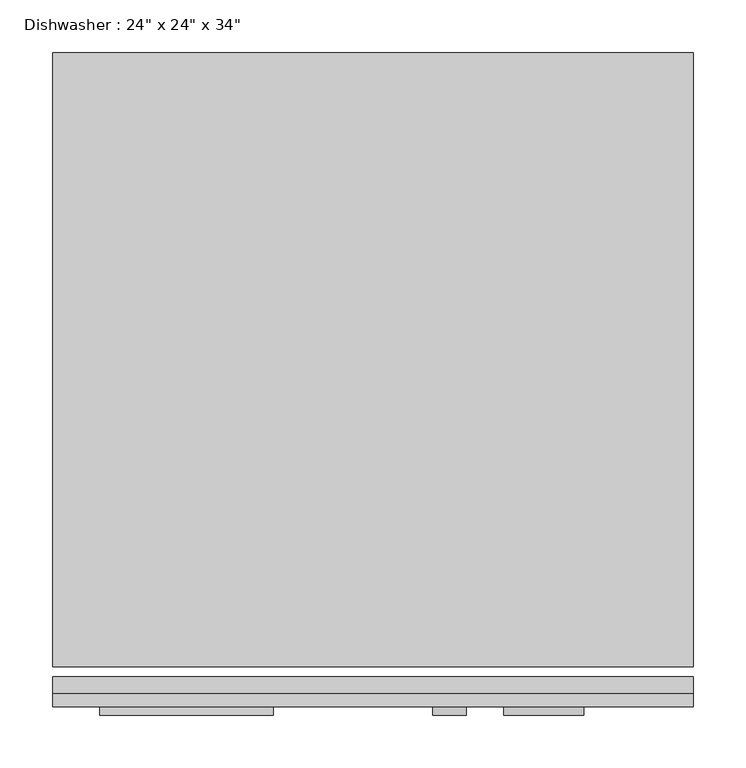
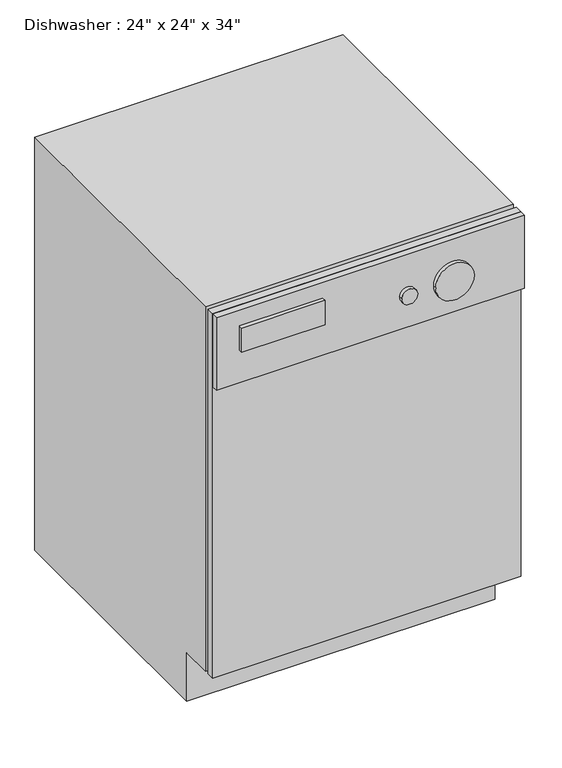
"""IFC4 building model written with IfcOpenShell, lengths in millimetres: proxy geometry."""

from ifc_helpers import new_model, si_unit, point, frame, frame_2d, origin, place, context, project, spatial, polyline, circle_curve, trimmed, segment, composite_curve, outline, extrude, source, transform, mapped, element, save


def proxy_45b28599(model_context):
    return source(origin(), model_context, "Body", "SweptSolid", [
        extrude(outline(polyline([(687.1174685, -38.3504352), (77.5174685, -38.3504352), (77.5174685, -22.4754352), (687.1174685, -22.4754352), (687.1174685, -38.3504352)])), frame((0.0, 0.0, 101.6), z_axis=(0.0, 0.0, 1.0), x_axis=(1.0, 0.0, 0.0)), (0.0, 0.0, 1.0), 762.0),
        extrude(outline(polyline([(687.1174685, -38.3504352), (687.1174685, -51.0504352), (77.5174685, -51.0504352), (77.5174685, -38.3504352), (687.1174685, -38.3504352)])), frame((0.0, 0.0, 711.2), z_axis=(0.0, 0.0, 1.0), x_axis=(1.0, 0.0, 0.0)), (0.0, 0.0, 1.0), 152.4),
        extrude(outline(polyline([(571.2495648, 0.0), (50.5495648, 0.0), (50.5495648, 101.6), (-12.9504352, 101.6), (-12.9504352, 863.6), (571.2495648, 863.6), (571.2495648, 0.0)])), frame((77.5174685, 0.0, 0.0), z_axis=(1.0, 0.0, 0.0), x_axis=(0.0, 1.0, 0.0)), (0.0, 0.0, 1.0), 609.6),
        extrude(outline(polyline([(287.6378068, -59.1863727), (122.5378068, -59.1863727), (122.5378068, -51.0504352), (287.6378068, -51.0504352), (287.6378068, -59.1863727)])), frame((0.0, 0.0, 780.0846419), z_axis=(0.0, 0.0, 1.0), x_axis=(1.0, 0.0, 0.0)), (0.0, 0.0, 1.0), 50.8),
        extrude(outline(composite_curve([segment(trimmed(circle_curve(frame_2d((780.0846419, 544.7247133)), 38.1), [point((780.0846419, 506.6247133))], [point((780.0846419, 582.8247133))], False, "CARTESIAN"), True, "CONTINUOUS"), segment(trimmed(circle_curve(frame_2d((780.0846419, 544.7247133)), 38.1), [point((780.0846419, 582.8247133))], [point((780.0846419, 506.6247133))], False, "CARTESIAN"), True, "CONTINUOUS")], self_intersect=False)), frame((0.0, -59.1863727, 0.0), z_axis=(0.0, 1.0, 0.0), x_axis=(0.0, 0.0, 1.0)), (0.0, 0.0, 1.0), 8.1359375),
        extrude(outline(composite_curve([segment(trimmed(circle_curve(frame_2d((780.0846419, 455.195318)), 15.875), [point((780.0846419, 439.320318))], [point((780.0846419, 471.070318))], False, "CARTESIAN"), True, "CONTINUOUS"), segment(trimmed(circle_curve(frame_2d((780.0846419, 455.195318)), 15.875), [point((780.0846419, 471.070318))], [point((780.0846419, 439.320318))], False, "CARTESIAN"), True, "CONTINUOUS")], self_intersect=False)), frame((0.0, -59.1863727, 0.0), z_axis=(0.0, 1.0, 0.0), x_axis=(0.0, 0.0, 1.0)), (0.0, 0.0, 1.0), 8.1359375),
    ])


if __name__ == "__main__":
    model = new_model("IFC4")
    model_context = context("Model", 3, world=origin())
    ifc_project = project(units=[si_unit("LENGTHUNIT", "METRE", prefix="MILLI")], contexts=[model_context])
    site = spatial("IfcSite", under=ifc_project)
    building = spatial("IfcBuilding", under=site)
    placement = place(None, origin())
    proxy_shape = proxy_45b28599(model_context)
    element("IfcBuildingElementProxy", 1, Name="Dishwasher : 24\" x 24\" x 34\"", ObjectType="Dishwasher : 24\" x 24\" x 34\"", at=placement, inside=building, context=model_context, shape_type="MappedRepresentation", body=[
        mapped(proxy_shape, transform((0.0, 0.0, 0.0), x_axis=(1.0, 0.0, 0.0), y_axis=(0.0, 1.0, 0.0), z_axis=(0.0, 0.0, 1.0))),
    ])
    save(model, "model.ifc")
